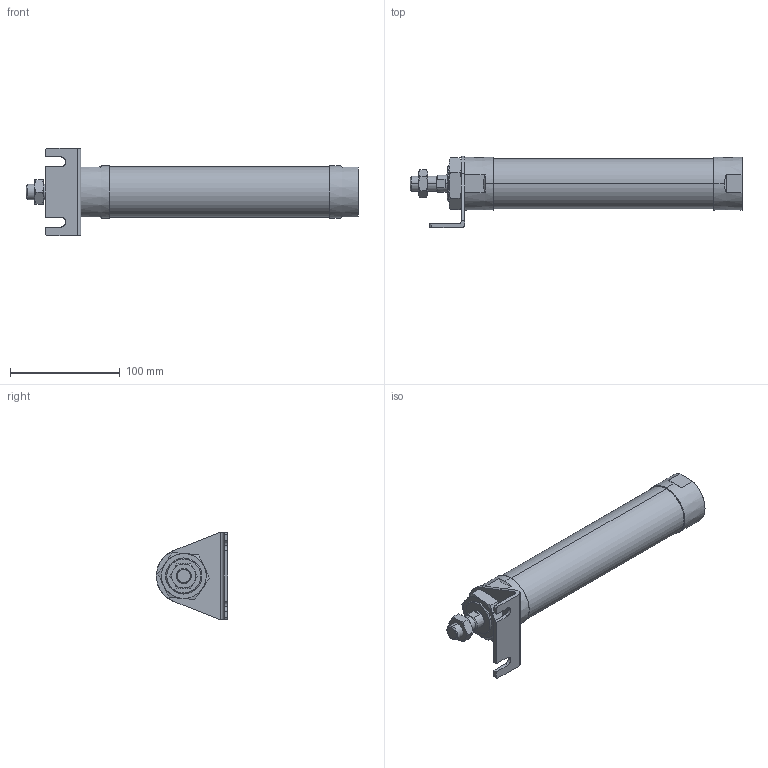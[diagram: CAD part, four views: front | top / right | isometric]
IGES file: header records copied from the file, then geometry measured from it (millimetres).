
Start section: SolidWorks IGES file using analytic representation for surfaces
Global section: file name: C:\Users\Toshiba\Desktop\JGND2-40-150-L.IGS; native system: SolidWorks 2014; preprocessor: SolidWorks 2014; author: Toshiba; date: 160804.111249; units: millimetre
Bounding box: 303 x 65 x 80 mm (x, y, z)
Surface area: 61607 mm2 (no closed solid volume)
Topology: 0 solids, 0 shells, 116 faces, 2112 edges, 2108 vertices
Faces by surface type: bspline 71, revolution 45
